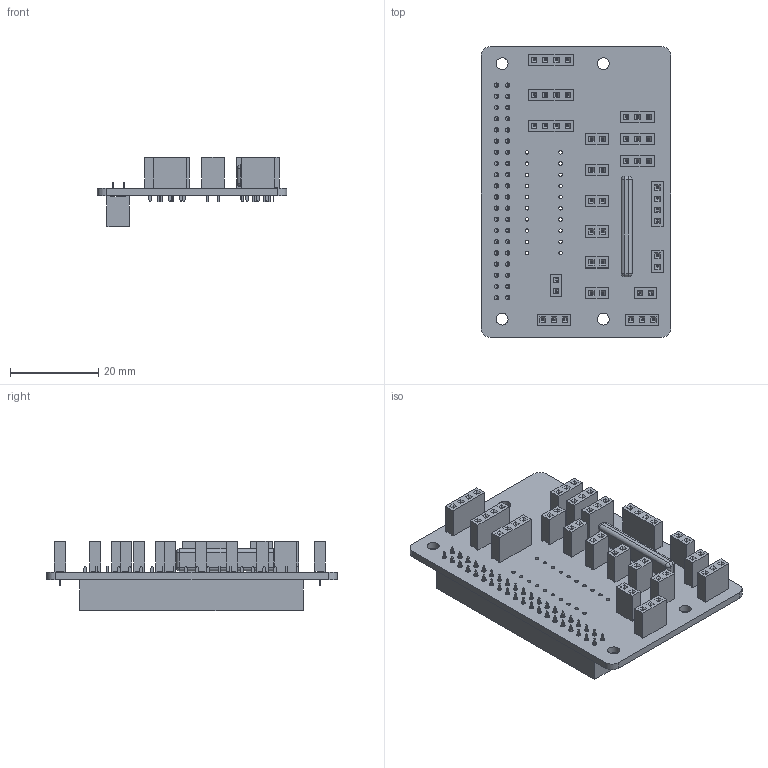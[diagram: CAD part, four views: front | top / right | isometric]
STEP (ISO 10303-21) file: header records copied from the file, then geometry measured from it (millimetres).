
FILE_DESCRIPTION(('KiCad electronic assembly'),'2;1');
FILE_NAME('GLEAM_V1.step','2022-01-31T21:11:34',('An Author'),( 'A Company'),'Open CASCADE STEP processor 7.5', 'KiCad to STEP converter','Unknown');
FILE_SCHEMA(('AUTOMOTIVE_DESIGN { 1 0 10303 214 1 1 1 1 }'));
Length unit declared in the file: millimetre
Products named in the file (12): Open CASCADE STEP translator 7.5 1; PinSocket_2x20_P2.54mm_Vertical; SOLID; PinSocket_1x04_P2.54mm_Vertical; PinSocket_1x03_P2.54mm_Vertical; PinSocket_1x02_P2.54mm_Vertical; R_Array_SIP9; COMPOUND
Assembly tree (26 placements, depth 3):
  Open CASCADE STEP translator 7.5 1
    PinSocket_2x20_P2.54mm_Vertical
      SOLID
    PinSocket_1x04_P2.54mm_Vertical  x4
      SOLID
    PinSocket_1x03_P2.54mm_Vertical  x5
      SOLID
    PinSocket_1x02_P2.54mm_Vertical  x9
      SOLID
    R_Array_SIP9
      SOLID
    COMPOUND
Bounding box: 43 x 66 x 15.7 mm (x, y, z)
Volume: 8418.1 mm3; surface area: 12995.3 mm2
Topology: 21 solids, 21 shells, 3199 faces, 8247 edges, 5366 vertices
Faces by surface type: plane 3052, cylinder 139, sphere 8
Full cylindrical faces by diameter (mm): 0.787 x20, 0.8 x9, 1 x90, 2.7 x4
Entity records: 127763 total; most frequent: CARTESIAN_POINT 19375, DIRECTION 17969, LINE 13479, VECTOR 13479, ORIENTED_EDGE 9358, PCURVE 9358, DEFINITIONAL_REPRESENTATION 9358, EDGE_CURVE 4679
